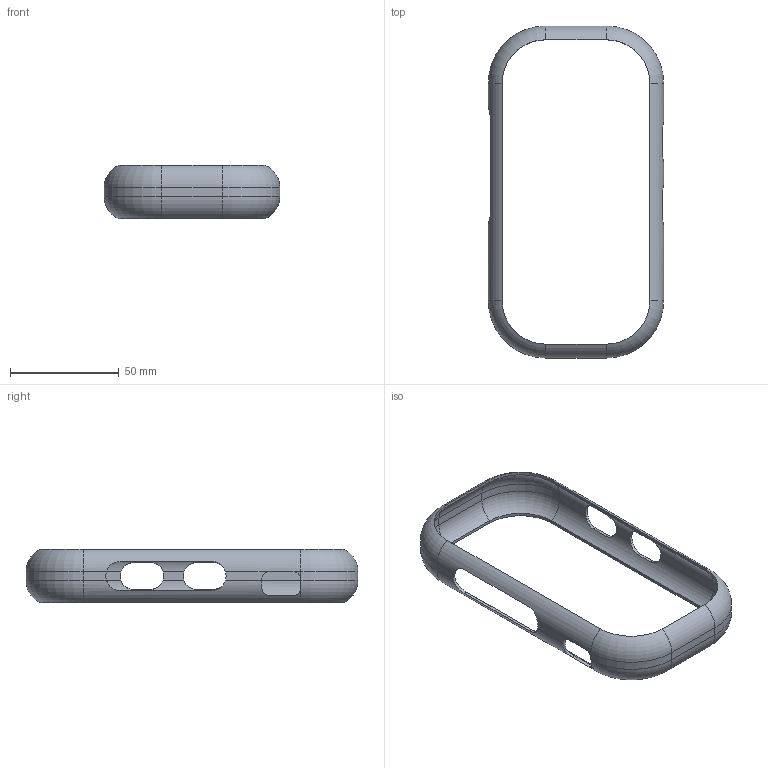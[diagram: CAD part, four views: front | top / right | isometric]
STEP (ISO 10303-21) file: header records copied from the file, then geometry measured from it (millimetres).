
FILE_DESCRIPTION(/* description */ (''),/* implementation_level */ '2;1');
FILE_NAME(/* name */ 'F01.step',/* time_stamp */ '2026-09-14T14:30:59-07:00',/* author */ (''),/* organization */ (''),/* preprocessor_version */ 'ST-DEVELOPER v20.1',/* originating_system */ 'Autodesk Translation Framework v15.8.0.0',/* authorisation */ '');
FILE_SCHEMA (('AUTOMOTIVE_DESIGN { 1 0 10303 214 3 1 1 }'));
Length unit declared in the file: millimetre
Products named in the file (1): 2026-09-14-14-30-58-977
Bounding box: 80.7 x 152.7 x 24.38 mm (x, y, z)
Volume: 11753.5 mm3; surface area: 20998 mm2
Topology: 1 solids, 1 shells, 104 faces, 274 edges, 162 vertices
Faces by surface type: cylinder 48, plane 40, torus 16
Entity records: 4284 total; most frequent: CARTESIAN_POINT 1686, ORIENTED_EDGE 548, DIRECTION 544, EDGE_CURVE 274, AXIS2_PLACEMENT_3D 201, VERTEX_POINT 162, LINE 142, VECTOR 142
